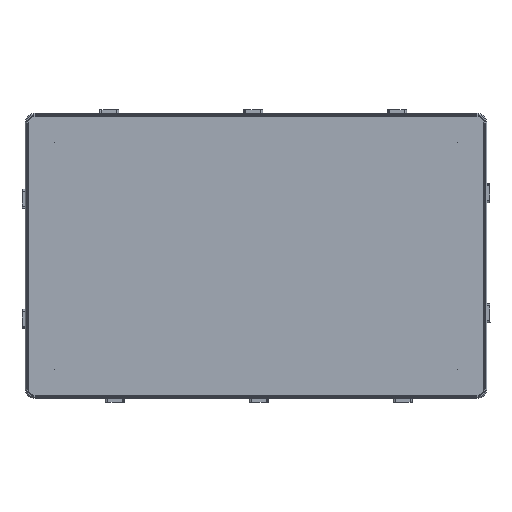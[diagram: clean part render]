
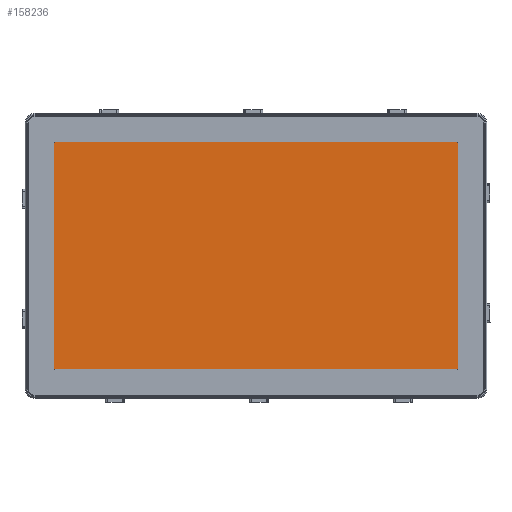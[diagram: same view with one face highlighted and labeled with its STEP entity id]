
A CAD part, top view. The second image highlights one B-rep face of the part: STEP entity #158236.
In plain terms, the highlighted planar face has unit normal (0, 0, 1).
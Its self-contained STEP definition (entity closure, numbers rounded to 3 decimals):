
#6648=PLANE('',#167471);
#19880=LINE('',#271198,#34206);
#19884=LINE('',#271206,#34210);
#19887=LINE('',#271212,#34213);
#19890=LINE('',#271217,#34216);
#34206=VECTOR('',#197694,10.);
#34210=VECTOR('',#197700,10.);
#34213=VECTOR('',#197705,10.);
#34216=VECTOR('',#197710,10.);
#44240=FACE_OUTER_BOUND('',#53210,.T.);
#53210=EDGE_LOOP('',(#136864,#136865,#136866,#136867));
#75111=VERTEX_POINT('',#271196);
#75112=VERTEX_POINT('',#271197);
#75115=VERTEX_POINT('',#271205);
#75117=VERTEX_POINT('',#271211);
#96154=EDGE_CURVE('',#75111,#75112,#19880,.T.);
#96158=EDGE_CURVE('',#75112,#75115,#19884,.T.);
#96161=EDGE_CURVE('',#75115,#75117,#19887,.T.);
#96164=EDGE_CURVE('',#75117,#75111,#19890,.T.);
#136864=ORIENTED_EDGE('',*,*,#96154,.T.);
#136865=ORIENTED_EDGE('',*,*,#96158,.T.);
#136866=ORIENTED_EDGE('',*,*,#96161,.T.);
#136867=ORIENTED_EDGE('',*,*,#96164,.T.);
#158236=ADVANCED_FACE('',(#44240),#6648,.F.);
#167471=AXIS2_PLACEMENT_3D('',#271219,#197712,#197713);
#197694=DIRECTION('',(1.,0.,0.));
#197700=DIRECTION('',(0.,1.,0.));
#197705=DIRECTION('',(-1.,0.,0.));
#197710=DIRECTION('',(0.,-1.,0.));
#197712=DIRECTION('center_axis',(0.,0.,
-1.));
#197713=DIRECTION('ref_axis',(1.,0.,0.));
#271196=CARTESIAN_POINT('',(-238.4,-134.15,1.1));
#271197=CARTESIAN_POINT('',(238.4,-134.15,1.1));
#271198=CARTESIAN_POINT('',(238.4,-134.15,1.1));
#271205=CARTESIAN_POINT('',(238.4,134.15,1.1));
#271206=CARTESIAN_POINT('',(238.4,134.15,1.1));
#271211=CARTESIAN_POINT('',(-238.4,134.15,1.1));
#271212=CARTESIAN_POINT('',(-238.4,134.15,1.1));
#271217=CARTESIAN_POINT('',(-238.4,-134.15,1.1));
#271219=CARTESIAN_POINT('Origin',(0.,0.,
1.1));
